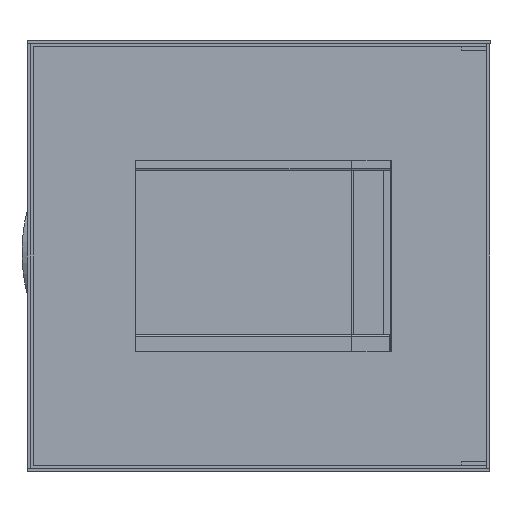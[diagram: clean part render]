
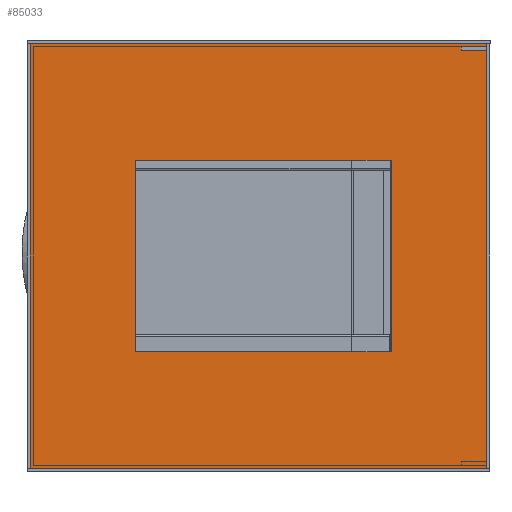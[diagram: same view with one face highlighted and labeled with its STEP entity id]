
A CAD part, front view. The second image highlights one B-rep face of the part: STEP entity #85033.
In plain terms, the highlighted planar face has unit normal (0, -1, 0) as drawn and (0, 0, -1) by its records, which use the part's own axes.
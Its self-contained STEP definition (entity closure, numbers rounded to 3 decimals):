
#8334=FACE_BOUND('',#13917,.T.);
#9144=FACE_OUTER_BOUND('',#13916,.T.);
#13916=EDGE_LOOP('',(#59621,#59622,#59623,#59624));
#13917=EDGE_LOOP('',(#59625,#59626,#59627,#59628));
#19280=LINE('',#124089,#28002);
#19283=LINE('',#124095,#28005);
#19286=LINE('',#124101,#28008);
#19289=LINE('',#124105,#28011);
#19293=LINE('',#124119,#28015);
#19409=LINE('',#124436,#28131);
#19686=LINE('',#125069,#28408);
#19687=LINE('',#125070,#28409);
#28002=VECTOR('',#99492,10.);
#28005=VECTOR('',#99497,10.);
#28008=VECTOR('',#99502,10.);
#28011=VECTOR('',#99507,10.);
#28015=VECTOR('',#99519,10.);
#28131=VECTOR('',#99777,10.);
#28408=VECTOR('',#100358,10.);
#28409=VECTOR('',#100359,10.);
#36407=VERTEX_POINT('',#124086);
#36408=VERTEX_POINT('',#124088);
#36410=VERTEX_POINT('',#124094);
#36412=VERTEX_POINT('',#124100);
#36417=VERTEX_POINT('',#124116);
#36418=VERTEX_POINT('',#124118);
#36547=VERTEX_POINT('',#124433);
#36548=VERTEX_POINT('',#124435);
#44927=EDGE_CURVE('',#36408,#36407,#19280,.T.);
#44930=EDGE_CURVE('',#36410,#36408,#19283,.T.);
#44933=EDGE_CURVE('',#36412,#36410,#19286,.T.);
#44936=EDGE_CURVE('',#36407,#36412,#19289,.T.);
#44942=EDGE_CURVE('',#36417,#36418,#19293,.T.);
#45100=EDGE_CURVE('',#36547,#36548,#19409,.T.);
#45417=EDGE_CURVE('',#36418,#36547,#19686,.T.);
#45418=EDGE_CURVE('',#36548,#36417,#19687,.T.);
#59621=ORIENTED_EDGE('',*,*,#45417,.F.);
#59622=ORIENTED_EDGE('',*,*,#44942,.F.);
#59623=ORIENTED_EDGE('',*,*,#45418,.F.);
#59624=ORIENTED_EDGE('',*,*,#45100,.F.);
#59625=ORIENTED_EDGE('',*,*,#44933,.T.);
#59626=ORIENTED_EDGE('',*,*,#44930,.T.);
#59627=ORIENTED_EDGE('',*,*,#44927,.T.);
#59628=ORIENTED_EDGE('',*,*,#44936,.T.);
#82144=PLANE('',#90244);
#85033=ADVANCED_FACE('',(#9144,#8334),#82144,.F.);
#90244=AXIS2_PLACEMENT_3D('',#125068,#100356,#100357);
#99492=DIRECTION('',(0.,-1.,0.));
#99497=DIRECTION('',(-1.,0.,0.));
#99502=DIRECTION('',(0.,1.,0.));
#99507=DIRECTION('',(1.,0.,0.));
#99519=DIRECTION('',(0.,-1.,0.));
#99777=DIRECTION('',(0.,1.,0.));
#100356=DIRECTION('center_axis',(0.,0.,1.));
#100357=DIRECTION('ref_axis',(1.,0.,0.));
#100358=DIRECTION('',(1.,0.,0.));
#100359=DIRECTION('',(-1.,0.,0.));
#124086=CARTESIAN_POINT('',(182.5,165.,0.));
#124088=CARTESIAN_POINT('',(182.5,565.,0.));
#124089=CARTESIAN_POINT('',(182.5,461.25,0.));
#124094=CARTESIAN_POINT('',(482.5,565.,0.));
#124095=CARTESIAN_POINT('',(407.5,565.,0.));
#124100=CARTESIAN_POINT('',(482.5,165.,0.));
#124101=CARTESIAN_POINT('',(482.5,261.25,0.));
#124105=CARTESIAN_POINT('',(257.5,165.,0.));
#124116=CARTESIAN_POINT('',(0.,715.,0.));
#124118=CARTESIAN_POINT('',(0.,0.,0.));
#124119=CARTESIAN_POINT('',(0.,715.,0.));
#124433=CARTESIAN_POINT('',(665.,0.,0.));
#124435=CARTESIAN_POINT('',(665.,715.,0.));
#124436=CARTESIAN_POINT('',(665.,0.,0.));
#125068=CARTESIAN_POINT('Origin',(332.5,357.5,0.));
#125069=CARTESIAN_POINT('',(0.,0.,0.));
#125070=CARTESIAN_POINT('',(665.,715.,0.));
